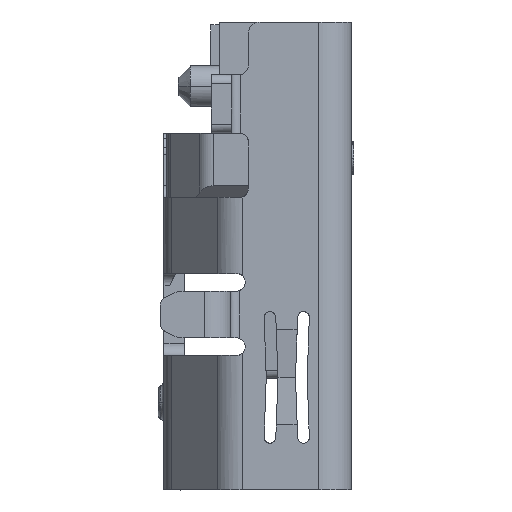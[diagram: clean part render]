
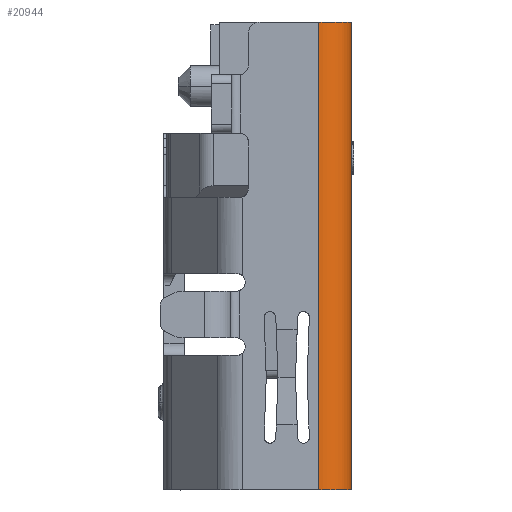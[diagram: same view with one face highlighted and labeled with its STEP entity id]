
A CAD part, left-side view. The second image highlights one B-rep face of the part: STEP entity #20944.
In plain terms, the highlighted cylindrical face has radius 0.55 mm (diameter 1.1 mm), a partial arc.
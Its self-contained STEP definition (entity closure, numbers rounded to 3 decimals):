
#301 = VERTEX_POINT ( 'NONE', #40832 ) ;
#2309 = EDGE_LOOP ( 'NONE', ( #45275, #31651, #15801, #43580 ) ) ;
#2372 = CARTESIAN_POINT ( 'NONE',  ( -5.38, 0.55, 2.371 ) ) ;
#3442 = CYLINDRICAL_SURFACE ( 'NONE', #58893, 0.55 ) ;
#6416 = CARTESIAN_POINT ( 'NONE',  ( -4.83, 0., -0.295 ) ) ;
#11938 = CARTESIAN_POINT ( 'NONE',  ( -5.32, 0.263, -0.295 ) ) ;
#13286 = CARTESIAN_POINT ( 'NONE',  ( -4.83, 0., 5.038 ) ) ;
#15339 = CARTESIAN_POINT ( 'NONE',  ( -5.38, 0.55, -0.295 ) ) ;
#15527 = EDGE_CURVE ( 'NONE', #63079, #301, #72767, .T. ) ;
#15801 = ORIENTED_EDGE ( 'NONE', *, *, #22959, .T. ) ;
#19883 = EDGE_CURVE ( 'NONE', #52989, #301, #41803, .T. ) ;
#20944 = ADVANCED_FACE ( 'NONE', ( #25153 ), #3442, .T. ) ;
#22959 = EDGE_CURVE ( 'NONE', #64952, #52989, #28981, .T. ) ;
#23276 = CARTESIAN_POINT ( 'NONE',  ( -4.83, 0., 7.705 ) ) ;
#25153 = FACE_OUTER_BOUND ( 'NONE', #2309, .T. ) ;
#25673 = CARTESIAN_POINT ( 'NONE',  ( -5.38, 0.55, 7.705 ) ) ;
#28981 = B_SPLINE_CURVE_WITH_KNOTS ( 'NONE', 3,
 ( #70147, #48393, #2372, #31436 ),
 .UNSPECIFIED., .F., .F.,
 ( 4, 4 ),
 ( 0., 1. ),
 .UNSPECIFIED. ) ;
#31436 = CARTESIAN_POINT ( 'NONE',  ( -5.38, 0.55, -0.295 ) ) ;
#31651 = ORIENTED_EDGE ( 'NONE', *, *, #36029, .T. ) ;
#34395 = CARTESIAN_POINT ( 'NONE',  ( -5.38, 0.55, -0.295 ) ) ;
#35751 = CARTESIAN_POINT ( 'NONE',  ( -4.83, 0., 2.371 ) ) ;
#36029 = EDGE_CURVE ( 'NONE', #63079, #64952, #54787, .T. ) ;
#40661 = CARTESIAN_POINT ( 'NONE',  ( -4.974, 0., -0.295 ) ) ;
#40832 = CARTESIAN_POINT ( 'NONE',  ( -4.83, 0., -0.295 ) ) ;
#41803 = B_SPLINE_CURVE_WITH_KNOTS ( 'NONE', 3,
 ( #34395, #67932, #11938, #56865, #40661, #6416 ),
 .UNSPECIFIED., .F., .F.,
 ( 4, 2, 4 ),
 ( 0., 0.5, 1. ),
 .UNSPECIFIED. ) ;
#43354 = CARTESIAN_POINT ( 'NONE',  ( -5.32, 0.263, 7.705 ) ) ;
#43580 = ORIENTED_EDGE ( 'NONE', *, *, #19883, .T. ) ;
#43711 = CARTESIAN_POINT ( 'NONE',  ( -4.83, 0., 7.705 ) ) ;
#45275 = ORIENTED_EDGE ( 'NONE', *, *, #15527, .F. ) ;
#48393 = CARTESIAN_POINT ( 'NONE',  ( -5.38, 0.55, 5.038 ) ) ;
#52989 = VERTEX_POINT ( 'NONE', #15339 ) ;
#53532 = CARTESIAN_POINT ( 'NONE',  ( -4.83, 0.55, 0.205 ) ) ;
#54787 = B_SPLINE_CURVE_WITH_KNOTS ( 'NONE', 3,
 ( #43711, #54791, #66204, #43354, #61037, #25673 ),
 .UNSPECIFIED., .F., .F.,
 ( 4, 2, 4 ),
 ( 0., 0.5, 1. ),
 .UNSPECIFIED. ) ;
#54791 = CARTESIAN_POINT ( 'NONE',  ( -4.974, 0., 7.705 ) ) ;
#56865 = CARTESIAN_POINT ( 'NONE',  ( -5.117, 0.059, -0.295 ) ) ;
#58893 = AXIS2_PLACEMENT_3D ( 'NONE', #53532, #64594, #64227 ) ;
#61037 = CARTESIAN_POINT ( 'NONE',  ( -5.38, 0.406, 7.705 ) ) ;
#63079 = VERTEX_POINT ( 'NONE', #23276 ) ;
#64227 = DIRECTION ( 'NONE',  ( -1., 0., 0. ) ) ;
#64594 = DIRECTION ( 'NONE',  ( 0., 0., 1. ) ) ;
#64952 = VERTEX_POINT ( 'NONE', #68942 ) ;
#66204 = CARTESIAN_POINT ( 'NONE',  ( -5.117, 0.059, 7.705 ) ) ;
#67932 = CARTESIAN_POINT ( 'NONE',  ( -5.38, 0.406, -0.295 ) ) ;
#68923 = CARTESIAN_POINT ( 'NONE',  ( -4.83, 0., 7.705 ) ) ;
#68942 = CARTESIAN_POINT ( 'NONE',  ( -5.38, 0.55, 7.705 ) ) ;
#69654 = CARTESIAN_POINT ( 'NONE',  ( -4.83, 0., -0.295 ) ) ;
#70147 = CARTESIAN_POINT ( 'NONE',  ( -5.38, 0.55, 7.705 ) ) ;
#72767 = B_SPLINE_CURVE_WITH_KNOTS ( 'NONE', 3,
 ( #68923, #13286, #35751, #69654 ),
 .UNSPECIFIED., .F., .F.,
 ( 4, 4 ),
 ( 0., 1. ),
 .UNSPECIFIED. ) ;
